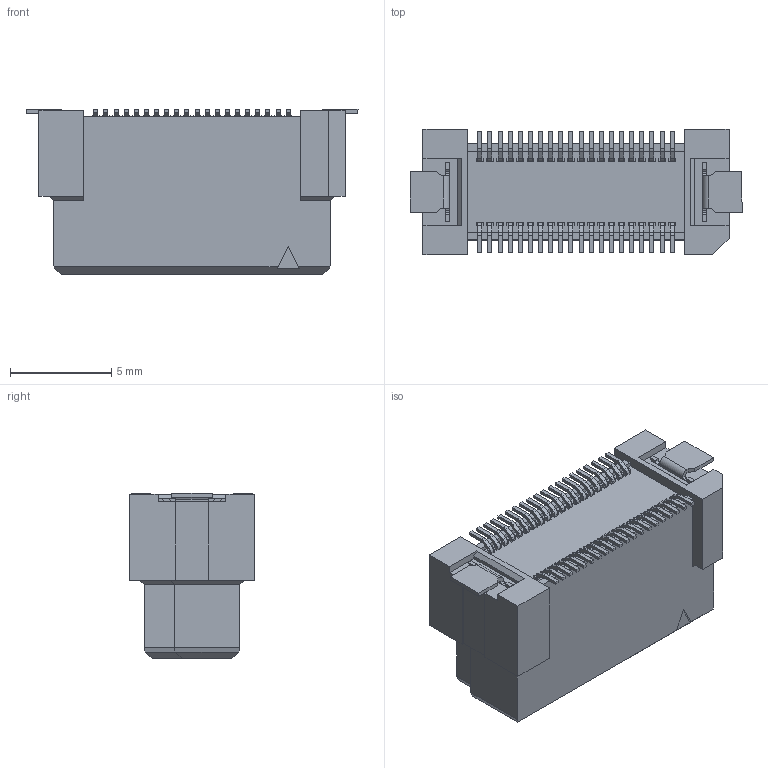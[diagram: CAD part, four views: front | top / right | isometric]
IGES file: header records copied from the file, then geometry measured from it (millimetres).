
Start section: Elysium IGES Interface
Global section: file name: 73HC:\Users\1502\Desktop\DT_webリニューアル\プラグ\ボス無\DT10-040S-10-T.igs; native system: Creo Elements/Direct Modeling 19.0F  14-Feb-2017; preprocessor: Creo Element/Direct IGES_3D V2.2; author: Unknown; organization: Unknown; date: 20170811.100539; units: millimetre
Bounding box: 16.4 x 6.2 x 8.18 mm (x, y, z)
Volume: 494.8 mm3; surface area: 829.3 mm2
Topology: 1 solids, 1 shells, 1491 faces, 4038 edges, 2632 vertices
Faces by surface type: bspline 1491
